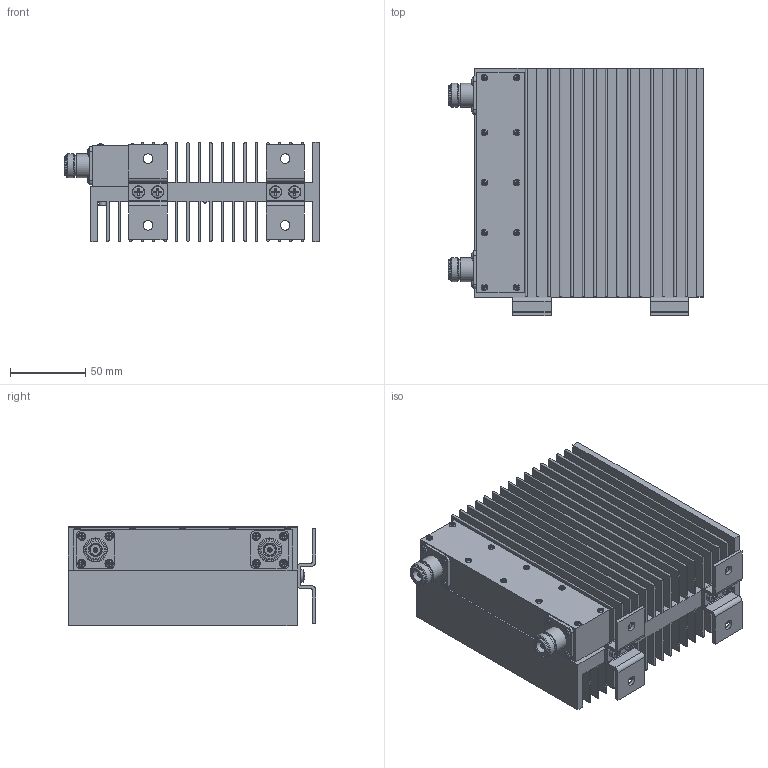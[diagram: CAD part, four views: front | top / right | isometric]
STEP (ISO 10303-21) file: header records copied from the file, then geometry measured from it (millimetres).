
FILE_DESCRIPTION(/* description */ ('Unknown'),/* implementation_level */ '2;1');
FILE_NAME(/* name */ '100-A-FFN-XX_RevC_STEP',/* time_stamp */ '2018-06-26T12:48:24-04:00',/* author */ ('Unknown'),/* organization */ ('Unknown'),/* preprocessor_version */ 'ST-DEVELOPER v16.7',/* originating_system */ 'DEX',/* authorisation */ $);
FILE_SCHEMA (('AUTOMOTIVE_DESIGN {1 0 10303 214 3 1 1}'));
Length unit declared in the file: millimetre
Products named in the file (1): 100-A-FFN-XX_ATTENUATOR_100W
Bounding box: 169.91 x 164.85 x 66.04 mm (x, y, z)
Volume: 663908.1 mm3; surface area: 380891.8 mm2
Topology: 1 solids, 62 shells, 1142 faces, 2899 edges, 1907 vertices
Faces by surface type: plane 642, cylinder 314, cone 138, torus 26, sphere 22
Full cylindrical faces by diameter (mm): 1.694 x20, 2.156 x32, 2.184 x20, 2.54 x10, 2.845 x24, 3.048 x8, 3.175 x8, 3.307 x8, 4.216 x4, 4.369 x4, 4.648 x8, 6.35 x4, 6.993 x2, 8.128 x2, 8.179 x4, 13.462 x4, 15.875 x4
Entity records: 39380 total; most frequent: CARTESIAN_POINT 5617, DIRECTION 5572, ORIENTED_EDGE 4724, EDGE_CURVE 2362, AXIS2_PLACEMENT_3D 2203, VERTEX_POINT 1752, FACE_BOUND 1618, EDGE_LOOP 1580
